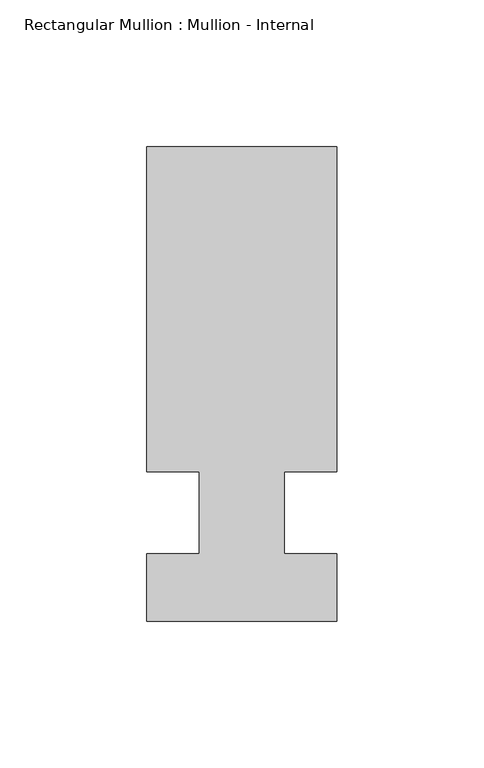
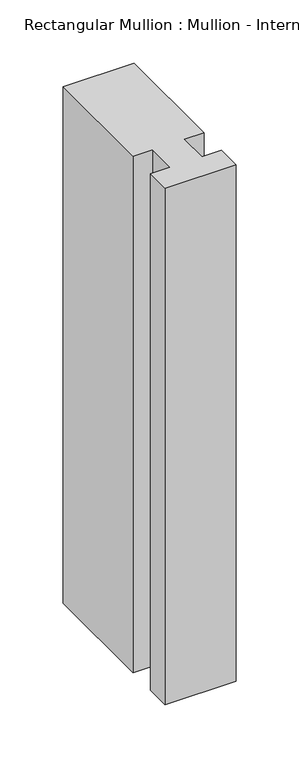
"""IFC4 building model written with IfcOpenShell, lengths in millimetres: member geometry, Rectangular Mullion : Mullion - Internal."""

from ifc_helpers import new_model, si_unit, frame, origin, place, context, project, spatial, polyline, outline, extrude, source, transform, mapped, element, save


def rectangular_mullion_mullion_internal_c4b4ccbf(model_context):
    return source(origin(), model_context, "Body", "SweptSolid", [
        extrude(outline(polyline([(-32.5, -14.0), (-14.5, -14.0), (-14.5, 14.0), (-32.5, 14.0), (-32.5, 125.0), (32.5, 125.0), (32.5, 14.0), (14.5, 14.0), (14.5, -14.0), (32.5, -14.0), (32.5, -37.0), (-32.5, -37.0), (-32.5, -14.0)])), frame((0.0, 0.0, -500.0), z_axis=(0.0, 0.0, 1.0), x_axis=(1.0, 0.0, 0.0)), (0.0, 0.0, 1.0), 500.0),
    ])


if __name__ == "__main__":
    model = new_model("IFC4")
    model_context = context("Model", 3, world=origin())
    ifc_project = project(units=[si_unit("LENGTHUNIT", "METRE", prefix="MILLI")], contexts=[model_context])
    site = spatial("IfcSite", under=ifc_project)
    building = spatial("IfcBuilding", under=site)
    placement = place(None, origin())
    rectangular_mullion_mullion_internal_shape = rectangular_mullion_mullion_internal_c4b4ccbf(model_context)
    element("IfcMember", 1, ObjectType="Rectangular Mullion : Mullion - Internal", at=placement, inside=building, context=model_context, shape_type="MappedRepresentation", body=[
        mapped(rectangular_mullion_mullion_internal_shape, transform((0.0, 0.0, 0.0), x_axis=(1.0, 0.0, 0.0), y_axis=(0.0, 1.0, 0.0), z_axis=(0.0, 0.0, 1.0))),
    ])
    save(model, "model.ifc")
